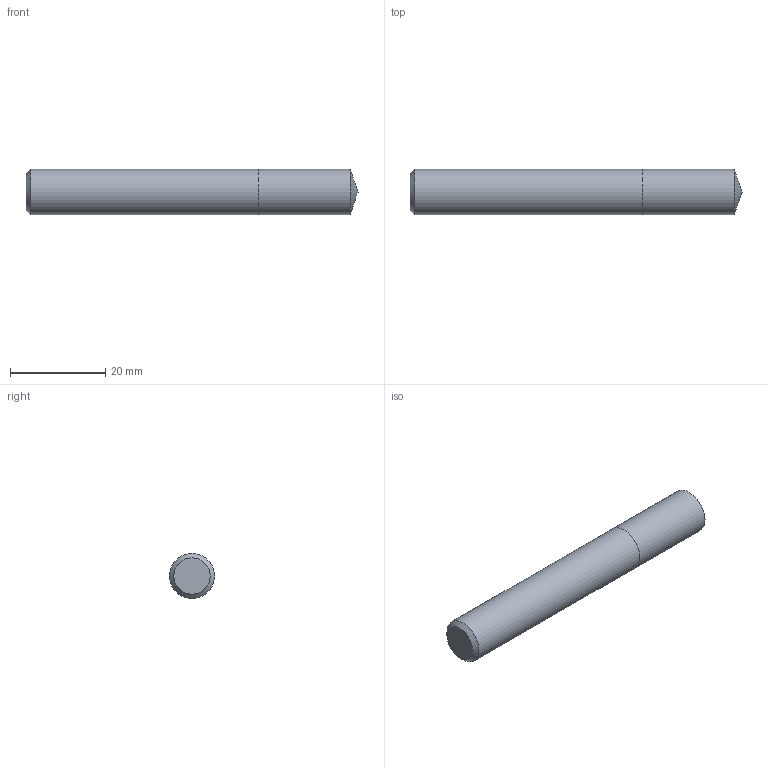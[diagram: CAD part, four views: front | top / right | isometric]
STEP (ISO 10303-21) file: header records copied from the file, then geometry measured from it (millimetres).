
FILE_DESCRIPTION (( 'STEP AP214' ), '1' );
FILE_NAME ('03-2223.STEP', '2022-02-07T07:04:46', ( 'USER' ), ( '' ), 'SwSTEP 2.0', 'SolidWorks 2018', '' );
FILE_SCHEMA (( 'AUTOMOTIVE_DESIGN' ));
Length unit declared in the file: millimetre
Products named in the file (1): 03-2223
Bounding box: 69.85 x 9.53 x 9.53 mm (x, y, z)
Volume: 4886.6 mm3; surface area: 2312.3 mm2
Topology: 2 solids, 2 shells, 7 faces, 11 edges, 7 vertices
Faces by surface type: plane 3, cylinder 2, cone 2
Full cylindrical faces by diameter (mm): 9.525 x2
Entity records: 189 total; most frequent: DIRECTION 26, CARTESIAN_POINT 18, AXIS2_PLACEMENT_3D 13, EDGE_LOOP 10, ORIENTED_EDGE 10, FACE_OUTER_BOUND 9, ADVANCED_FACE 7, UNCERTAINTY_MEASURE_WITH_UNIT 6
